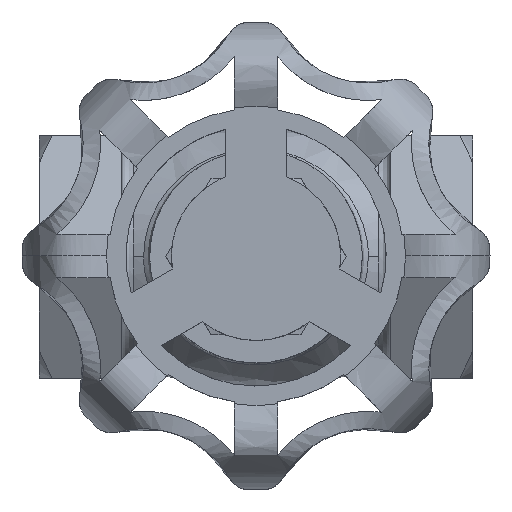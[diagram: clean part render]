
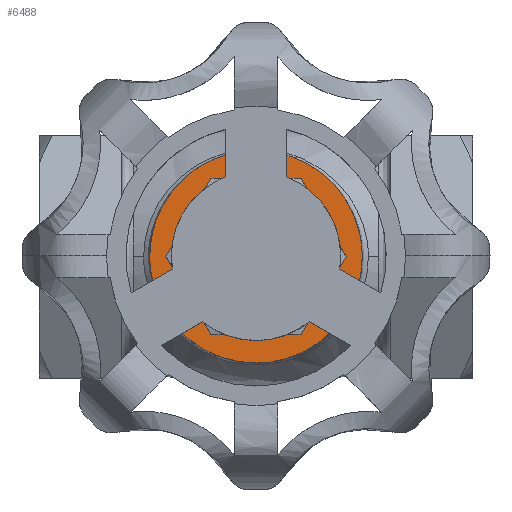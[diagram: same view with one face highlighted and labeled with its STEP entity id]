
A CAD part, top view. The second image highlights one B-rep face of the part: STEP entity #6488.
In plain terms, the highlighted free-form (B-spline) face has degree [1, 1] with [2, 2] control points.
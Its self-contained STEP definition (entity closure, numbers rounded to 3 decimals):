
#241=CARTESIAN_POINT('',(-8.869,8.45,22.));
#242=VERTEX_POINT('',#241);
#243=CARTESIAN_POINT('',(0.,12.25,22.));
#244=VERTEX_POINT('',#243);
#245=CARTESIAN_POINT('',(-8.869,8.45,22.));
#246=CARTESIAN_POINT('',(-8.37,8.974,22.));
#247=CARTESIAN_POINT('',(-7.279,9.932,22.));
#248=CARTESIAN_POINT('',(-5.482,11.019,22.));
#249=CARTESIAN_POINT('',(-3.796,11.685,22.));
#250=CARTESIAN_POINT('',(-1.989,12.134,22.));
#251=CARTESIAN_POINT('',(-0.775,12.25,22.));
#252=CARTESIAN_POINT('',(0.,12.25,22.));
#253=B_SPLINE_CURVE_WITH_KNOTS('',3,(#245,#246,#247,#248,#249,#250,#251,#252),.UNSPECIFIED.,.F.,.U.,(4,1,1,1,1,4),(0.,2.169,4.339,6.276,7.593,9.917),.UNSPECIFIED.);
#254=EDGE_CURVE('',#242,#244,#253,.T.);
#256=CARTESIAN_POINT('',(12.25,0.,22.));
#257=VERTEX_POINT('',#256);
#258=CARTESIAN_POINT('',(0.,12.25,22.));
#259=CARTESIAN_POINT('',(5.074,12.25,22.));
#260=CARTESIAN_POINT('',(8.662,8.662,22.));
#261=CARTESIAN_POINT('',(12.25,5.074,22.));
#262=CARTESIAN_POINT('',(12.25,0.,22.));
#270=(BOUNDED_CURVE()B_SPLINE_CURVE(2,(#258,#259,#260,#261,#262),.UNSPECIFIED.,.F.,.U.)B_SPLINE_CURVE_WITH_KNOTS((3,2,3),(0.,0.5,1.),.UNSPECIFIED.)CURVE()GEOMETRIC_REPRESENTATION_ITEM()RATIONAL_B_SPLINE_CURVE((1.,0.924,1.,0.924,1.))REPRESENTATION_ITEM(''));
#271=EDGE_CURVE('',#244,#257,#270,.T.);
#273=CARTESIAN_POINT('',(8.869,-8.45,22.));
#274=VERTEX_POINT('',#273);
#275=CARTESIAN_POINT('',(12.25,0.,22.));
#276=CARTESIAN_POINT('',(12.25,-0.923,22.));
#277=CARTESIAN_POINT('',(12.068,-2.525,22.));
#278=CARTESIAN_POINT('',(11.46,-4.429,22.));
#279=CARTESIAN_POINT('',(10.528,-6.408,22.));
#280=CARTESIAN_POINT('',(9.64,-7.642,22.));
#281=CARTESIAN_POINT('',(8.869,-8.45,22.));
#282=B_SPLINE_CURVE_WITH_KNOTS('',3,(#275,#276,#277,#278,#279,#280,#281),.UNSPECIFIED.,.F.,.U.,(4,1,1,1,4),(0.,2.768,4.808,5.974,9.325),.UNSPECIFIED.);
#283=EDGE_CURVE('',#257,#274,#282,.T.);
#441=CARTESIAN_POINT('',(-12.25,0.,22.));
#442=VERTEX_POINT('',#441);
#443=CARTESIAN_POINT('',(-12.25,0.,22.));
#444=CARTESIAN_POINT('',(-12.25,0.826,22.));
#445=CARTESIAN_POINT('',(-12.078,2.526,22.));
#446=CARTESIAN_POINT('',(-11.379,4.712,22.));
#447=CARTESIAN_POINT('',(-10.306,6.734,22.));
#448=CARTESIAN_POINT('',(-9.438,7.853,22.));
#449=CARTESIAN_POINT('',(-8.869,8.45,22.));
#450=B_SPLINE_CURVE_WITH_KNOTS('',3,(#443,#444,#445,#446,#447,#448,#449),.UNSPECIFIED.,.F.,.U.,(4,1,1,1,4),(0.,2.477,5.1,6.848,9.325),.UNSPECIFIED.);
#451=EDGE_CURVE('',#442,#242,#450,.T.);
#571=CARTESIAN_POINT('',(0.,-12.25,22.));
#572=VERTEX_POINT('',#571);
#573=CARTESIAN_POINT('',(8.869,-8.45,22.));
#574=CARTESIAN_POINT('',(7.135,-10.27,22.));
#575=CARTESIAN_POINT('',(4.824,-11.26,22.));
#576=CARTESIAN_POINT('',(2.514,-12.25,22.));
#577=CARTESIAN_POINT('',(0.,-12.25,22.));
#585=(BOUNDED_CURVE()B_SPLINE_CURVE(2,(#573,#574,#575,#576,#577),.UNSPECIFIED.,.F.,.U.)B_SPLINE_CURVE_WITH_KNOTS((3,2,3),(0.,0.5,1.),.UNSPECIFIED.)CURVE()GEOMETRIC_REPRESENTATION_ITEM()RATIONAL_B_SPLINE_CURVE((1.,0.98,1.,0.98,1.))REPRESENTATION_ITEM(''));
#586=EDGE_CURVE('',#274,#572,#585,.T.);
#588=CARTESIAN_POINT('',(0.,-12.25,22.));
#589=CARTESIAN_POINT('',(-0.802,-12.25,22.));
#590=CARTESIAN_POINT('',(-2.455,-12.087,22.));
#591=CARTESIAN_POINT('',(-4.741,-11.378,22.));
#592=CARTESIAN_POINT('',(-6.69,-10.329,22.));
#593=CARTESIAN_POINT('',(-8.458,-8.958,22.));
#594=CARTESIAN_POINT('',(-9.982,-7.245,22.));
#595=CARTESIAN_POINT('',(-11.079,-5.35,22.));
#596=CARTESIAN_POINT('',(-11.706,-3.708,22.));
#597=CARTESIAN_POINT('',(-12.133,-2.004,22.));
#598=CARTESIAN_POINT('',(-12.25,-0.777,22.));
#599=CARTESIAN_POINT('',(-12.25,0.,22.));
#600=B_SPLINE_CURVE_WITH_KNOTS('',3,(#588,#589,#590,#591,#592,#593,#594,#595,#596,#597,#598,#599),.UNSPECIFIED.,.F.,.U.,(4,1,1,1,1,1,1,1,1,4),(0.,2.405,4.961,7.141,9.02,11.651,13.981,15.559,16.912,19.242),.UNSPECIFIED.);
#601=EDGE_CURVE('',#572,#442,#600,.T.);
#6338=CARTESIAN_POINT('',(5.196,-9.,22.));
#6339=VERTEX_POINT('',#6338);
#6346=CARTESIAN_POINT('',(-5.196,-9.,22.));
#6347=VERTEX_POINT('',#6346);
#6353=CARTESIAN_POINT('',(-5.196,-9.,22.));
#6354=CARTESIAN_POINT('',(5.196,-9.,22.));
#6355=QUASI_UNIFORM_CURVE('',1,(#6353,#6354),.UNSPECIFIED.,.F.,.U.);
#6356=EDGE_CURVE('',#6347,#6339,#6355,.T.);
#6368=CARTESIAN_POINT('',(-10.392,0.,22.));
#6369=VERTEX_POINT('',#6368);
#6375=CARTESIAN_POINT('',(-10.392,0.,22.));
#6376=CARTESIAN_POINT('',(-5.196,-9.,22.));
#6377=QUASI_UNIFORM_CURVE('',1,(#6375,#6376),.UNSPECIFIED.,.F.,.U.);
#6378=EDGE_CURVE('',#6369,#6347,#6377,.T.);
#6391=CARTESIAN_POINT('',(-5.196,9.,22.));
#6392=VERTEX_POINT('',#6391);
#6398=CARTESIAN_POINT('',(-5.196,9.,22.));
#6399=CARTESIAN_POINT('',(-10.392,0.,22.));
#6400=QUASI_UNIFORM_CURVE('',1,(#6398,#6399),.UNSPECIFIED.,.F.,.U.);
#6401=EDGE_CURVE('',#6392,#6369,#6400,.T.);
#6413=CARTESIAN_POINT('',(5.196,9.,22.));
#6414=VERTEX_POINT('',#6413);
#6420=CARTESIAN_POINT('',(5.196,9.,22.));
#6421=CARTESIAN_POINT('',(-5.196,9.,22.));
#6422=QUASI_UNIFORM_CURVE('',1,(#6420,#6421),.UNSPECIFIED.,.F.,.U.);
#6423=EDGE_CURVE('',#6414,#6392,#6422,.T.);
#6435=CARTESIAN_POINT('',(10.392,0.,22.));
#6436=VERTEX_POINT('',#6435);
#6442=CARTESIAN_POINT('',(10.392,0.,22.));
#6443=CARTESIAN_POINT('',(5.196,9.,22.));
#6444=QUASI_UNIFORM_CURVE('',1,(#6442,#6443),.UNSPECIFIED.,.F.,.U.);
#6445=EDGE_CURVE('',#6436,#6414,#6444,.T.);
#6459=CARTESIAN_POINT('',(5.196,-9.,22.));
#6460=CARTESIAN_POINT('',(10.392,0.,22.));
#6461=QUASI_UNIFORM_CURVE('',1,(#6459,#6460),.UNSPECIFIED.,.F.,.U.);
#6462=EDGE_CURVE('',#6339,#6436,#6461,.T.);
#6467=CARTESIAN_POINT('',(13.474,-13.474,22.));
#6468=CARTESIAN_POINT('',(-13.474,-13.474,22.));
#6469=CARTESIAN_POINT('',(13.474,13.474,22.));
#6470=CARTESIAN_POINT('',(-13.474,13.474,22.));
#6471=B_SPLINE_SURFACE_WITH_KNOTS('',1,1,((#6467,#6469),(#6468,#6470)),.UNSPECIFIED.,.F.,.F.,.U.,(2,2),(2,2),(0.,26.948),(0.,26.948),.UNSPECIFIED.);
#6472=ORIENTED_EDGE('',*,*,#601,.F.);
#6473=ORIENTED_EDGE('',*,*,#586,.F.);
#6474=ORIENTED_EDGE('',*,*,#283,.F.);
#6475=ORIENTED_EDGE('',*,*,#271,.F.);
#6476=ORIENTED_EDGE('',*,*,#254,.F.);
#6477=ORIENTED_EDGE('',*,*,#451,.F.);
#6478=EDGE_LOOP('',(#6472,#6473,#6474,#6475,#6476,#6477));
#6479=FACE_OUTER_BOUND('',#6478,.T.);
#6480=ORIENTED_EDGE('',*,*,#6356,.F.);
#6481=ORIENTED_EDGE('',*,*,#6378,.F.);
#6482=ORIENTED_EDGE('',*,*,#6401,.F.);
#6483=ORIENTED_EDGE('',*,*,#6423,.F.);
#6484=ORIENTED_EDGE('',*,*,#6445,.F.);
#6485=ORIENTED_EDGE('',*,*,#6462,.F.);
#6486=EDGE_LOOP('',(#6480,#6481,#6482,#6483,#6484,#6485));
#6487=FACE_BOUND('',#6486,.T.);
#6488=ADVANCED_FACE('',(#6479,#6487),#6471,.F.);
